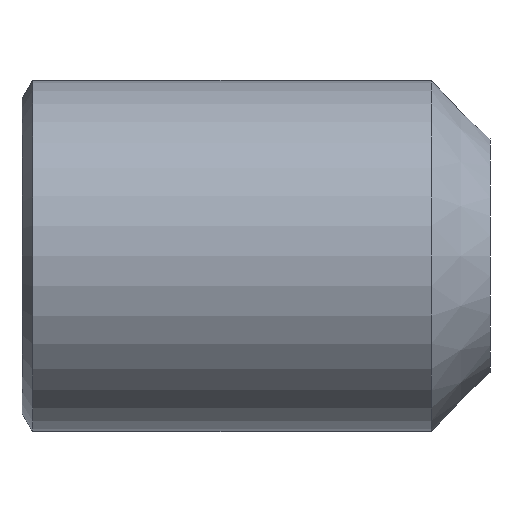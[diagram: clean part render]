
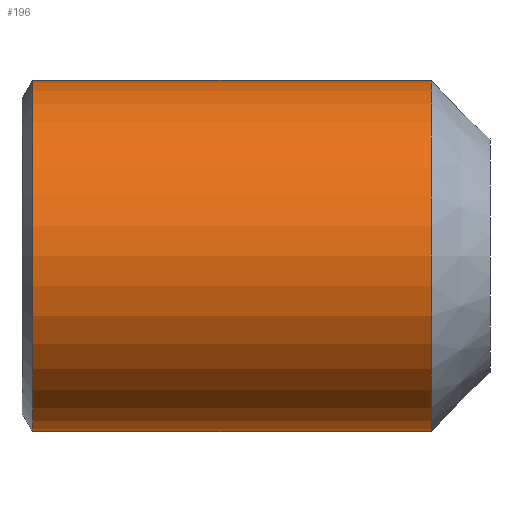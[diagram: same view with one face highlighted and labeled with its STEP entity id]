
A CAD part, left-side view. The second image highlights one B-rep face of the part: STEP entity #196.
In plain terms, the highlighted cylindrical face has radius 3 mm (diameter 6 mm), a full revolution.
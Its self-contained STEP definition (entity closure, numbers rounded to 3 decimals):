
#31=CYLINDRICAL_SURFACE('',#230,3.);
#33=FACE_OUTER_BOUND('',#45,.T.);
#45=EDGE_LOOP('',(#142,#143,#144,#145));
#58=LINE('',#303,#74);
#74=VECTOR('',#256,3.);
#90=CIRCLE('',#229,3.);
#91=CIRCLE('',#231,3.);
#94=VERTEX_POINT('',#297);
#95=VERTEX_POINT('',#301);
#113=EDGE_CURVE('',#94,#94,#90,.T.);
#114=EDGE_CURVE('',#95,#95,#91,.T.);
#115=EDGE_CURVE('',#95,#94,#58,.T.);
#142=ORIENTED_EDGE('',*,*,#114,.F.);
#143=ORIENTED_EDGE('',*,*,#115,.T.);
#144=ORIENTED_EDGE('',*,*,#113,.F.);
#145=ORIENTED_EDGE('',*,*,#115,.F.);
#196=ADVANCED_FACE('',(#33),#31,.T.);
#229=AXIS2_PLACEMENT_3D('',#299,#250,#251);
#230=AXIS2_PLACEMENT_3D('',#300,#252,#253);
#231=AXIS2_PLACEMENT_3D('',#302,#254,#255);
#250=DIRECTION('center_axis',(0.,-1.,0.));
#251=DIRECTION('ref_axis',(1.,0.,0.));
#252=DIRECTION('center_axis',(0.,1.,0.));
#253=DIRECTION('ref_axis',(1.,0.,0.));
#254=DIRECTION('center_axis',(0.,1.,0.));
#255=DIRECTION('ref_axis',(1.,0.,0.));
#256=DIRECTION('',(0.,-1.,0.));
#297=CARTESIAN_POINT('',(-3.,1.,0.));
#299=CARTESIAN_POINT('Origin',(0.,1.,0.));
#300=CARTESIAN_POINT('Origin',(0.,0.,0.));
#301=CARTESIAN_POINT('',(-3.,7.82,0.));
#302=CARTESIAN_POINT('Origin',(0.,7.82,0.));
#303=CARTESIAN_POINT('',(-3.,0.,0.));
